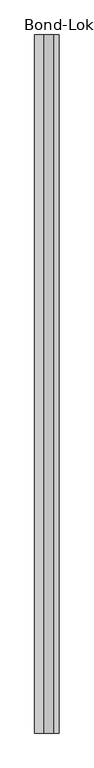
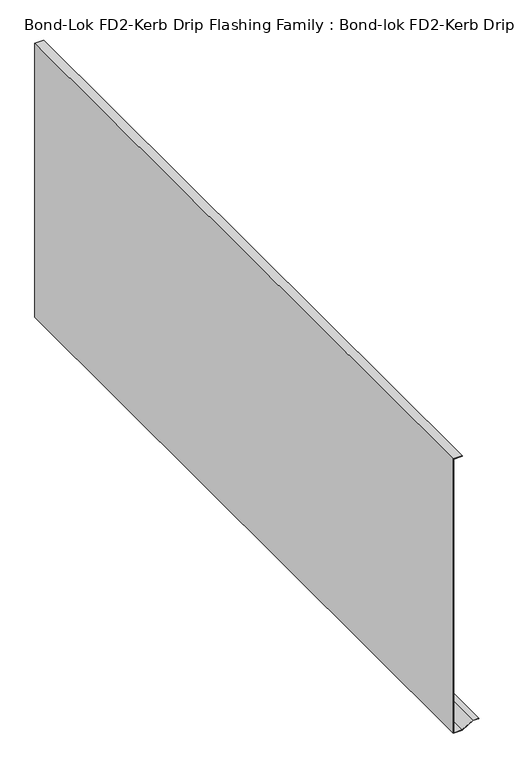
"""IFC4 building model written with IfcOpenShell, lengths in millimetres: proxy geometry, Bond-Lok FD2-Kerb Drip Flashing Family : Bond-lok FD2-Kerb Drip Flashing."""

from ifc_helpers import new_model, si_unit, frame, origin, place, context, project, spatial, polyline, outline, extrude, source, transform, mapped, element, save


def bond_lok_fd2_kerb_drip_flashing_family_bond_lok_fd2_kerb_91b61740(model_context):
    return source(origin(), model_context, "Body", "SweptSolid", [
        extrude(outline(polyline([(800.0, 0.0), (0.0, 0.0), (0.0, 25.0), (17.5, 55.3108891), (17.5, 70.3108891), (18.5, 70.3108891), (18.5, 55.0429399), (1.0, 24.7320508), (1.0, 1.0), (799.0, 1.0), (799.0, 25.0), (800.0, 25.0), (800.0, 0.0)])), frame((0.0, -2000.0, 0.0), z_axis=(0.0, 1.0, 0.0), x_axis=(0.0, 0.0, 1.0)), (0.0, 0.0, 1.0), 2000.0),
    ])


if __name__ == "__main__":
    model = new_model("IFC4")
    model_context = context("Model", 3, world=origin())
    ifc_project = project(units=[si_unit("LENGTHUNIT", "METRE", prefix="MILLI")], contexts=[model_context])
    site = spatial("IfcSite", under=ifc_project)
    building = spatial("IfcBuilding", under=site)
    placement = place(None, origin())
    bond_lok_fd2_kerb_drip_flashing_family_bond_lok_fd2_kerb_shape = bond_lok_fd2_kerb_drip_flashing_family_bond_lok_fd2_kerb_91b61740(model_context)
    element("IfcBuildingElementProxy", 1, Name="Bond-Lok FD2-Kerb Drip Flashing Family : Bond-lok FD2-Kerb Drip Flashing", ObjectType="Bond-Lok FD2-Kerb Drip Flashing Family : Bond-lok FD2-Kerb Drip Flashing", at=placement, inside=building, context=model_context, shape_type="MappedRepresentation", body=[
        mapped(bond_lok_fd2_kerb_drip_flashing_family_bond_lok_fd2_kerb_shape, transform((0.0, 0.0, 0.0), x_axis=(1.0, 0.0, 0.0), y_axis=(0.0, 1.0, 0.0), z_axis=(0.0, 0.0, 1.0))),
    ])
    save(model, "model.ifc")
